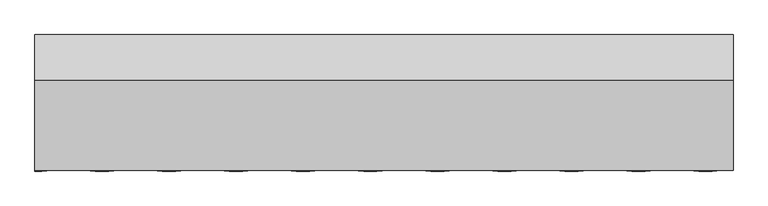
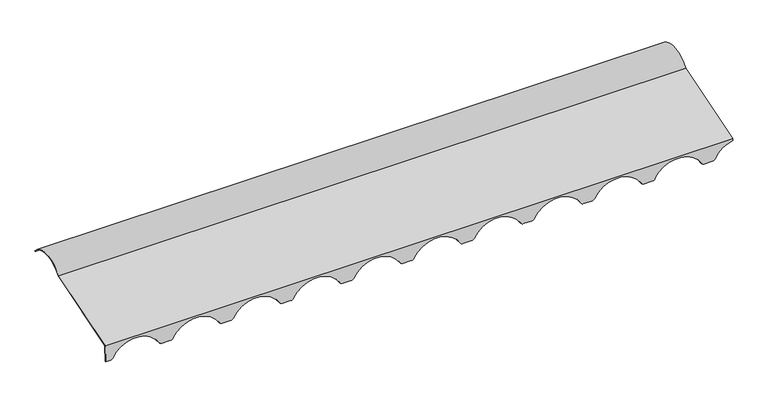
"""IFC4 building model written with IfcOpenShell, lengths in millimetres: proxy geometry, H20.F20.003-B-REMATES TEJA-Cumbrera Troquelada : Cumbrera Troquelada Teja."""

from ifc_helpers import new_model, si_unit, point, frame, origin, place, context, project, spatial, polyline, circle_curve, ellipse_curve, trimmed, source, transform, mapped, element, save
from ifc_brep_helpers import plane_surface, cylinder_surface, revolved_surface, extruded_surface, advanced_brep


def generic_models_30704ff6(model_context):
    return source(origin(), model_context, "Body", "AdvancedBrep", [
        advanced_brep(
        [(0.0, -281.4033726, -80.897882), (0.0, -283.699857, -124.7174144), (0.0, -285.2976643, -124.6336769), (0.0, -282.9425462, -79.6953478), (0.0, -58.2444748, -10.9982533), (0.0, 54.2044834, -5.8308046), (0.0, 52.9905575, -6.8731021), (0.0, -57.2523162, -12.3680268), (1735.0, -57.2523162, -12.3680268), (1735.0, -281.4033726, -80.897882), (1735.0, 52.9905575, -6.8731021), (1735.0, 54.2044834, -5.8308046), (1735.0, -58.2444748, -10.9982533), (1735.0, -282.9425462, -79.6953478), (12.0278261, -285.2976643, -124.6336769), (18.9419763, -285.0927503, -120.7236858), (147.7180237, -285.0927503, -120.7236858), (154.6321739, -285.2976643, -124.6336769), (178.6878261, -285.2976643, -124.6336769), (185.6019763, -285.0927503, -120.7236858), (314.3780237, -285.0927503, -120.7236858), (321.2921739, -285.2976643, -124.6336769), (345.3478261, -285.2976643, -124.6336769), (352.2619763, -285.0927503, -120.7236858), (481.0380237, -285.0927503, -120.7236858), (487.9521739, -285.2976643, -124.6336769), (512.0078261, -285.2976643, -124.6336769), (518.9219763, -285.0927503, -120.7236858), (647.6980237, -285.0927503, -120.7236858), (654.6121739, -285.2976643, -124.6336769), (678.6678261, -285.2976643, -124.6336769), (685.5819763, -285.0927503, -120.7236858), (814.3580237, -285.0927503, -120.7236858), (821.2721739, -285.2976643, -124.6336769), (845.3278261, -285.2976643, -124.6336769), (852.2419763, -285.0927503, -120.7236858), (981.0180237, -285.0927503, -120.7236858), (987.9321739, -285.2976643, -124.6336769), (1011.9878261, -285.2976643, -124.6336769), (1018.9019763, -285.0927503, -120.7236858), (1147.6780237, -285.0927503, -120.7236858), (1154.5921739, -285.2976643, -124.6336769), (1178.6478261, -285.2976643, -124.6336769), (1185.5619763, -285.0927503, -120.7236858), (1314.3380237, -285.0927503, -120.7236858), (1321.2521739, -285.2976643, -124.6336769), (1345.3078261, -285.2976643, -124.6336769), (1352.2219763, -285.0927503, -120.7236858), (1480.9980237, -285.0927503, -120.7236858), (1487.9121739, -285.2976643, -124.6336769), (1511.9678261, -285.2976643, -124.6336769), (1518.8819763, -285.0927503, -120.7236858), (1647.6580237, -285.0927503, -120.7236858), (1654.5721739, -285.2976643, -124.6336769), (1678.6278261, -285.2976643, -124.6336769), (1685.5419763, -285.0927503, -120.7236858), (1735.0, -283.2623847, -85.7982299), (12.0278261, -283.699857, -124.7174144), (154.6321739, -283.699857, -124.7174144), (178.6878261, -283.699857, -124.7174144), (321.2921739, -283.699857, -124.7174144), (345.3478261, -283.699857, -124.7174144), (487.9521739, -283.699857, -124.7174144), (512.0078261, -283.699857, -124.7174144), (654.6121739, -283.699857, -124.7174144), (678.6678261, -283.699857, -124.7174144), (821.2721739, -283.699857, -124.7174144), (845.3278261, -283.699857, -124.7174144), (987.9321739, -283.699857, -124.7174144), (1011.9878261, -283.699857, -124.7174144), (1154.5921739, -283.699857, -124.7174144), (1178.6478261, -283.699857, -124.7174144), (1321.2521739, -283.699857, -124.7174144), (1345.3078261, -283.699857, -124.7174144), (1487.9121739, -283.699857, -124.7174144), (1511.9678261, -283.699857, -124.7174144), (1654.5721739, -283.699857, -124.7174144), (1678.6278261, -283.699857, -124.7174144), (1735.0, -281.6645775, -85.8819674), (1685.5419763, -283.494943, -120.8074234), (1647.6580237, -283.494943, -120.8074234), (1518.8819763, -283.494943, -120.8074234), (1480.9980237, -283.494943, -120.8074234), (1352.2219763, -283.494943, -120.8074234), (1314.3380237, -283.494943, -120.8074234), (1185.5619763, -283.494943, -120.8074234), (1147.6780237, -283.494943, -120.8074234), (1018.9019763, -283.494943, -120.8074234), (981.0180237, -283.494943, -120.8074234), (852.2419763, -283.494943, -120.8074234), (814.3580237, -283.494943, -120.8074234), (685.5819763, -283.494943, -120.8074234), (647.6980237, -283.494943, -120.8074234), (518.9219763, -283.494943, -120.8074234), (481.0380237, -283.494943, -120.8074234), (352.2619763, -283.494943, -120.8074234), (314.3780237, -283.494943, -120.8074234), (185.6019763, -283.494943, -120.8074234), (147.7180237, -283.494943, -120.8074234), (18.9419763, -283.494943, -120.8074234)],
        [
            (0, 1),
            (1, 2),
            (2, 3),
            (3, 4),
            (4, 5, circle_curve(frame((0.0, 0.0, -52.3716984), z_axis=(-1.0, 0.0, 0.0), x_axis=(0.0, -1.0, 0.0)), 71.4435498)),
            (5, 6),
            (6, 7, circle_curve(frame((0.0, 0.0, -52.3716984), z_axis=(1.0, 0.0, 0.0), x_axis=(0.0, -1.0, 0.0)), 69.8435498)),
            (7, 0),
            (7, 8),
            (8, 9),
            (9, 0),
            (6, 10),
            (10, 8, circle_curve(frame((1735.0, 0.0, -52.3716984), z_axis=(1.0, 0.0, 0.0), x_axis=(0.0, -1.0, 0.0)), 69.8435498)),
            (5, 11),
            (11, 10),
            (4, 12),
            (12, 11, circle_curve(frame((1735.0, 0.0, -52.3716984), z_axis=(-1.0, 0.0, 0.0), x_axis=(0.0, -1.0, 0.0)), 71.4435498)),
            (3, 13),
            (13, 12),
            (2, 14),
            (14, 15, ellipse_curve(frame((12.0278261, -284.8853374, -116.766012), z_axis=(0.0, -0.998629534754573, 0.052335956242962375), x_axis=(1.0, 0.0, 0.0)), 8.0, 7.878462)),
            (15, 16, ellipse_curve(frame((83.33, -287.0242829, -157.5795235), z_axis=(0.0, 0.998629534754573, -0.052335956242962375), x_axis=(1.0, 0.0, 0.0)), 74.5, 73.3681776)),
            (16, 17, ellipse_curve(frame((154.6321739, -284.8853374, -116.766012), z_axis=(0.0, -0.998629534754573, 0.052335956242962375), x_axis=(1.0, 0.0, 0.0)), 8.0, 7.878462)),
            (17, 18),
            (18, 19, ellipse_curve(frame((178.6878261, -284.8853374, -116.766012), z_axis=(0.0, -0.998629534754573, 0.052335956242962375), x_axis=(1.0, 0.0, 0.0)), 8.0, 7.878462)),
            (19, 20, ellipse_curve(frame((249.99, -287.0242829, -157.5795235), z_axis=(0.0, 0.998629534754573, -0.052335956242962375), x_axis=(1.0, 0.0, 0.0)), 74.5, 73.3681776)),
            (20, 21, ellipse_curve(frame((321.2921739, -284.8853374, -116.766012), z_axis=(0.0, -0.998629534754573, 0.0523359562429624), x_axis=(1.0, 0.0, 0.0)), 8.0, 7.878462)),
            (21, 22),
            (22, 23, ellipse_curve(frame((345.3478261, -284.8853374, -116.766012), z_axis=(0.0, -0.998629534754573, 0.052335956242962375), x_axis=(1.0, 0.0, 0.0)), 8.0, 7.878462)),
            (23, 24, ellipse_curve(frame((416.65, -287.0242829, -157.5795235), z_axis=(0.0, 0.998629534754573, -0.052335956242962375), x_axis=(1.0, 0.0, 0.0)), 74.5, 73.3681776)),
            (24, 25, ellipse_curve(frame((487.9521739, -284.8853374, -116.766012), z_axis=(0.0, -0.998629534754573, 0.052335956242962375), x_axis=(1.0, 0.0, 0.0)), 8.0, 7.878462)),
            (25, 26),
            (26, 27, ellipse_curve(frame((512.0078261, -284.8853374, -116.766012), z_axis=(0.0, -0.998629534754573, 0.052335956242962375), x_axis=(1.0, 0.0, 0.0)), 8.0, 7.878462)),
            (27, 28, ellipse_curve(frame((583.31, -287.0242829, -157.5795235), z_axis=(0.0, 0.998629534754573, -0.052335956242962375), x_axis=(1.0, 0.0, 0.0)), 74.5, 73.3681776)),
            (28, 29, ellipse_curve(frame((654.6121739, -284.8853374, -116.766012), z_axis=(0.0, -0.998629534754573, 0.052335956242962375), x_axis=(1.0, 0.0, 0.0)), 8.0, 7.878462)),
            (29, 30),
            (30, 31, ellipse_curve(frame((678.6678261, -284.8853374, -116.766012), z_axis=(0.0, -0.998629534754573, 0.052335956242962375), x_axis=(1.0, 0.0, 0.0)), 8.0, 7.878462)),
            (31, 32, ellipse_curve(frame((749.97, -287.0242829, -157.5795235), z_axis=(0.0, 0.998629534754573, -0.052335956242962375), x_axis=(1.0, 0.0, 0.0)), 74.5, 73.3681776)),
            (32, 33, ellipse_curve(frame((821.2721739, -284.8853374, -116.766012), z_axis=(0.0, -0.998629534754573, 0.052335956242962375), x_axis=(1.0, 0.0, 0.0)), 8.0, 7.878462)),
            (33, 34),
            (34, 35, ellipse_curve(frame((845.3278261, -284.8853374, -116.766012), z_axis=(0.0, -0.998629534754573, 0.052335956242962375), x_axis=(1.0, 0.0, 0.0)), 8.0, 7.878462)),
            (35, 36, ellipse_curve(frame((916.63, -287.0242829, -157.5795235), z_axis=(0.0, 0.998629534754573, -0.052335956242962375), x_axis=(1.0, 0.0, 0.0)), 74.5, 73.3681776)),
            (36, 37, ellipse_curve(frame((987.9321739, -284.8853374, -116.766012), z_axis=(0.0, -0.998629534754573, 0.052335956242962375), x_axis=(1.0, 0.0, 0.0)), 8.0, 7.878462)),
            (37, 38),
            (38, 39, ellipse_curve(frame((1011.9878261, -284.8853374, -116.766012), z_axis=(0.0, -0.998629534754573, 0.052335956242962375), x_axis=(1.0, 0.0, 0.0)), 8.0, 7.878462)),
            (39, 40, ellipse_curve(frame((1083.29, -287.0242829, -157.5795235), z_axis=(0.0, 0.998629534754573, -0.0523359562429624), x_axis=(1.0, 0.0, 0.0)), 74.5, 73.3681776)),
            (40, 41, ellipse_curve(frame((1154.5921739, -284.8853374, -116.766012), z_axis=(0.0, -0.998629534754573, 0.052335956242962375), x_axis=(1.0, 0.0, 0.0)), 8.0, 7.878462)),
            (41, 42),
            (42, 43, ellipse_curve(frame((1178.6478261, -284.8853374, -116.766012), z_axis=(0.0, -0.998629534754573, 0.052335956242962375), x_axis=(1.0, 0.0, 0.0)), 8.0, 7.878462)),
            (43, 44, ellipse_curve(frame((1249.95, -287.0242829, -157.5795235), z_axis=(0.0, 0.998629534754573, -0.052335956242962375), x_axis=(1.0, 0.0, 0.0)), 74.5, 73.3681776)),
            (44, 45, ellipse_curve(frame((1321.2521739, -284.8853374, -116.766012), z_axis=(0.0, -0.998629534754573, 0.05233595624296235), x_axis=(1.0, 0.0, 0.0)), 8.0, 7.878462)),
            (45, 46),
            (46, 47, ellipse_curve(frame((1345.3078261, -284.8853374, -116.766012), z_axis=(0.0, -0.998629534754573, 0.052335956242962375), x_axis=(1.0, 0.0, 0.0)), 8.0, 7.878462)),
            (47, 48, ellipse_curve(frame((1416.61, -287.0242829, -157.5795235), z_axis=(0.0, 0.998629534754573, -0.052335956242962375), x_axis=(1.0, 0.0, 0.0)), 74.5, 73.3681776)),
            (48, 49, ellipse_curve(frame((1487.9121739, -284.8853374, -116.766012), z_axis=(0.0, -0.998629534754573, 0.0523359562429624), x_axis=(1.0, 0.0, 0.0)), 8.0, 7.878462)),
            (49, 50),
            (50, 51, ellipse_curve(frame((1511.9678261, -284.8853374, -116.766012), z_axis=(0.0, -0.998629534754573, 0.052335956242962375), x_axis=(1.0, 0.0, 0.0)), 8.0, 7.878462)),
            (51, 52, ellipse_curve(frame((1583.27, -287.0242829, -157.5795235), z_axis=(0.0, 0.998629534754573, -0.052335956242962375), x_axis=(1.0, 0.0, 0.0)), 74.5, 73.3681776)),
            (52, 53, ellipse_curve(frame((1654.5721739, -284.8853374, -116.766012), z_axis=(0.0, -0.998629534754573, 0.052335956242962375), x_axis=(1.0, 0.0, 0.0)), 8.0, 7.878462)),
            (53, 54),
            (54, 55, ellipse_curve(frame((1678.6278261, -284.8853374, -116.766012), z_axis=(0.0, -0.998629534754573, 0.052335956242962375), x_axis=(1.0, 0.0, 0.0)), 8.0, 7.878462)),
            (55, 56, ellipse_curve(frame((1749.93, -287.0242829, -157.5795235), z_axis=(0.0, 0.998629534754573, -0.052335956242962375), x_axis=(1.0, 0.0, 0.0)), 74.5, 73.3681776)),
            (56, 13),
            (1, 57),
            (57, 14),
            (17, 58),
            (58, 59),
            (59, 18),
            (21, 60),
            (60, 61),
            (61, 22),
            (25, 62),
            (62, 63),
            (63, 26),
            (29, 64),
            (64, 65),
            (65, 30),
            (33, 66),
            (66, 67),
            (67, 34),
            (37, 68),
            (68, 69),
            (69, 38),
            (41, 70),
            (70, 71),
            (71, 42),
            (45, 72),
            (72, 73),
            (73, 46),
            (49, 74),
            (74, 75),
            (75, 50),
            (53, 76),
            (76, 77),
            (77, 54),
            (9, 78),
            (78, 79, ellipse_curve(frame((1749.93, -285.4264757, -157.663261), z_axis=(0.0, -0.998629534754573, 0.052335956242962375), x_axis=(1.0, 0.0, 0.0)), 74.5, 73.3681776)),
            (79, 77, ellipse_curve(frame((1678.6278261, -283.2875302, -116.8497495), z_axis=(0.0, 0.998629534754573, -0.052335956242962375), x_axis=(1.0, 0.0, 0.0)), 8.0, 7.878462)),
            (76, 80, ellipse_curve(frame((1654.5721739, -283.2875302, -116.8497495), z_axis=(0.0, 0.998629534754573, -0.052335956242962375), x_axis=(1.0, 0.0, 0.0)), 8.0, 7.878462)),
            (80, 81, ellipse_curve(frame((1583.27, -285.4264757, -157.663261), z_axis=(0.0, -0.998629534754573, 0.052335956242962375), x_axis=(1.0, 0.0, 0.0)), 74.5, 73.3681776)),
            (81, 75, ellipse_curve(frame((1511.9678261, -283.2875302, -116.8497495), z_axis=(0.0, 0.998629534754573, -0.052335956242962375), x_axis=(1.0, 0.0, 0.0)), 8.0, 7.878462)),
            (74, 82, ellipse_curve(frame((1487.9121739, -283.2875302, -116.8497495), z_axis=(0.0, 0.998629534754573, -0.0523359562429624), x_axis=(1.0, 0.0, 0.0)), 8.0, 7.878462)),
            (82, 83, ellipse_curve(frame((1416.61, -285.4264757, -157.663261), z_axis=(0.0, -0.998629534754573, 0.052335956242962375), x_axis=(1.0, 0.0, 0.0)), 74.5, 73.3681776)),
            (83, 73, ellipse_curve(frame((1345.3078261, -283.2875302, -116.8497495), z_axis=(0.0, 0.998629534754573, -0.052335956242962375), x_axis=(1.0, 0.0, 0.0)), 8.0, 7.878462)),
            (72, 84, ellipse_curve(frame((1321.2521739, -283.2875302, -116.8497495), z_axis=(0.0, 0.998629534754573, -0.05233595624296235), x_axis=(1.0, 0.0, 0.0)), 8.0, 7.878462)),
            (84, 85, ellipse_curve(frame((1249.95, -285.4264757, -157.663261), z_axis=(0.0, -0.998629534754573, 0.052335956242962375), x_axis=(1.0, 0.0, 0.0)), 74.5, 73.3681776)),
            (85, 71, ellipse_curve(frame((1178.6478261, -283.2875302, -116.8497495), z_axis=(0.0, 0.998629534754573, -0.052335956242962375), x_axis=(1.0, 0.0, 0.0)), 8.0, 7.878462)),
            (70, 86, ellipse_curve(frame((1154.5921739, -283.2875302, -116.8497495), z_axis=(0.0, 0.998629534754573, -0.052335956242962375), x_axis=(1.0, 0.0, 0.0)), 8.0, 7.878462)),
            (86, 87, ellipse_curve(frame((1083.29, -285.4264757, -157.663261), z_axis=(0.0, -0.998629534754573, 0.0523359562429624), x_axis=(1.0, 0.0, 0.0)), 74.5, 73.3681776)),
            (87, 69, ellipse_curve(frame((1011.9878261, -283.2875302, -116.8497495), z_axis=(0.0, 0.998629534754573, -0.052335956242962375), x_axis=(1.0, 0.0, 0.0)), 8.0, 7.878462)),
            (68, 88, ellipse_curve(frame((987.9321739, -283.2875302, -116.8497495), z_axis=(0.0, 0.998629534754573, -0.052335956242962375), x_axis=(1.0, 0.0, 0.0)), 8.0, 7.878462)),
            (88, 89, ellipse_curve(frame((916.63, -285.4264757, -157.663261), z_axis=(0.0, -0.998629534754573, 0.052335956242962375), x_axis=(1.0, 0.0, 0.0)), 74.5, 73.3681776)),
            (89, 67, ellipse_curve(frame((845.3278261, -283.2875302, -116.8497495), z_axis=(0.0, 0.998629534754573, -0.052335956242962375), x_axis=(1.0, 0.0, 0.0)), 8.0, 7.878462)),
            (66, 90, ellipse_curve(frame((821.2721739, -283.2875302, -116.8497495), z_axis=(0.0, 0.998629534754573, -0.052335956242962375), x_axis=(1.0, 0.0, 0.0)), 8.0, 7.878462)),
            (90, 91, ellipse_curve(frame((749.97, -285.4264757, -157.663261), z_axis=(0.0, -0.998629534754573, 0.052335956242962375), x_axis=(1.0, 0.0, 0.0)), 74.5, 73.3681776)),
            (91, 65, ellipse_curve(frame((678.6678261, -283.2875302, -116.8497495), z_axis=(0.0, 0.998629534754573, -0.052335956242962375), x_axis=(1.0, 0.0, 0.0)), 8.0, 7.878462)),
            (64, 92, ellipse_curve(frame((654.6121739, -283.2875302, -116.8497495), z_axis=(0.0, 0.998629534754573, -0.052335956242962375), x_axis=(1.0, 0.0, 0.0)), 8.0, 7.878462)),
            (92, 93, ellipse_curve(frame((583.31, -285.4264757, -157.663261), z_axis=(0.0, -0.998629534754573, 0.052335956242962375), x_axis=(1.0, 0.0, 0.0)), 74.5, 73.3681776)),
            (93, 63, ellipse_curve(frame((512.0078261, -283.2875302, -116.8497495), z_axis=(0.0, 0.998629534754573, -0.052335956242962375), x_axis=(1.0, 0.0, 0.0)), 8.0, 7.878462)),
            (62, 94, ellipse_curve(frame((487.9521739, -283.2875302, -116.8497495), z_axis=(0.0, 0.998629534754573, -0.052335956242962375), x_axis=(1.0, 0.0, 0.0)), 8.0, 7.878462)),
            (94, 95, ellipse_curve(frame((416.65, -285.4264757, -157.663261), z_axis=(0.0, -0.998629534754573, 0.052335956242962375), x_axis=(1.0, 0.0, 0.0)), 74.5, 73.3681776)),
            (95, 61, ellipse_curve(frame((345.3478261, -283.2875302, -116.8497495), z_axis=(0.0, 0.998629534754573, -0.052335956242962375), x_axis=(1.0, 0.0, 0.0)), 8.0, 7.878462)),
            (60, 96, ellipse_curve(frame((321.2921739, -283.2875302, -116.8497495), z_axis=(0.0, 0.998629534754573, -0.0523359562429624), x_axis=(1.0, 0.0, 0.0)), 8.0, 7.878462)),
            (96, 97, ellipse_curve(frame((249.99, -285.4264757, -157.663261), z_axis=(0.0, -0.998629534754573, 0.052335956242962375), x_axis=(1.0, 0.0, 0.0)), 74.5, 73.3681776)),
            (97, 59, ellipse_curve(frame((178.6878261, -283.2875302, -116.8497495), z_axis=(0.0, 0.998629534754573, -0.052335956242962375), x_axis=(1.0, 0.0, 0.0)), 8.0, 7.878462)),
            (58, 98, ellipse_curve(frame((154.6321739, -283.2875302, -116.8497495), z_axis=(0.0, 0.998629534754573, -0.052335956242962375), x_axis=(1.0, 0.0, 0.0)), 8.0, 7.878462)),
            (98, 99, ellipse_curve(frame((83.33, -285.4264757, -157.663261), z_axis=(0.0, -0.998629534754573, 0.052335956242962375), x_axis=(1.0, 0.0, 0.0)), 74.5, 73.3681776)),
            (99, 57, ellipse_curve(frame((12.0278261, -283.2875302, -116.8497495), z_axis=(0.0, 0.998629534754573, -0.052335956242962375), x_axis=(1.0, 0.0, 0.0)), 8.0, 7.878462)),
            (15, 99),
            (98, 16),
            (97, 19),
            (96, 20),
            (95, 23),
            (94, 24),
            (93, 27),
            (92, 28),
            (91, 31),
            (90, 32),
            (89, 35),
            (88, 36),
            (87, 39),
            (86, 40),
            (85, 43),
            (84, 44),
            (83, 47),
            (82, 48),
            (81, 51),
            (80, 52),
            (79, 55),
            (78, 56),
        ],
        [
            plane_surface(frame((0.0, 0.0, 0.0), z_axis=(-1.0, 0.0, 0.0), x_axis=(0.0, 0.0, 1.0))),
            plane_surface(frame((2500.0, -281.4033726, -80.897882), z_axis=(0.0, 0.2923717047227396, -0.9563047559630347), x_axis=(-1.0, 0.0, 0.0))),
            revolved_surface(polyline([(0.0, -69.8435498, -52.3716984), (1735.0, -69.8435498, -52.3716984)]), (2500.0, 0.0, -52.3716984), (-1.0, 0.0, 0.0)),
            plane_surface(frame((2500.0, 52.9905575, -6.8731021), z_axis=(0.0, 0.6514359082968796, -0.7587036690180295), x_axis=(-1.0, 0.0, 0.0))),
            cylinder_surface(frame((2500.0, 0.0, -52.3716984), z_axis=(1.0, 0.0, 0.0), x_axis=(0.0, -1.0, 0.0)), 71.4435498),
            plane_surface(frame((2500.0, -58.2444748, -10.9982533), z_axis=(0.0, -0.2923717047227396, 0.9563047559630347), x_axis=(-1.0, 0.0, 0.0))),
            plane_surface(frame((2500.0, -282.9425462, -79.6953478), z_axis=(0.0, -0.998629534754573, 0.05233595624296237), x_axis=(-1.0, 0.0, 0.0))),
            plane_surface(frame((2500.0, -285.2976643, -124.6336769), z_axis=(0.0, -0.05233595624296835, -0.9986295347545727), x_axis=(-1.0, 0.0, 0.0))),
            plane_surface(frame((2500.0, -283.699857, -124.7174144), z_axis=(0.0, 0.9986295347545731, -0.05233595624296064), x_axis=(-1.0, 0.0, 0.0))),
            extruded_surface(trimmed(ellipse_curve(frame((83.33, -287.0242829, -157.5795235), z_axis=(0.0, 0.998629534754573, -0.052335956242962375), x_axis=(1.0, 0.0, 0.0)), 74.5, 73.3681776), [point((18.9419763, -285.0927503, -120.7236858))], [point((147.7180237, -285.0927503, -120.7236858))], True, "CARTESIAN"), (0.0, -1.997259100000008, 0.1046718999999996), 2.0000000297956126),
            extruded_surface(trimmed(ellipse_curve(frame((154.6321739, -284.8853374, -116.766012), z_axis=(0.0, -0.998629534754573, 0.052335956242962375), x_axis=(1.0, 0.0, 0.0)), 8.0, 7.878462), [point((147.7180237, -285.0927503, -120.7236858))], [point((154.6321739, -285.2976643, -124.6336769))], True, "CARTESIAN"), (0.0, -1.997259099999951, 0.1046718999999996), 2.000000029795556),
            extruded_surface(trimmed(ellipse_curve(frame((178.6878261, -284.8853374, -116.766012), z_axis=(0.0, -0.998629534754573, 0.052335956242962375), x_axis=(1.0, 0.0, 0.0)), 8.0, 7.878462), [point((178.6878261, -285.2976643, -124.6336769))], [point((185.6019763, -285.0927503, -120.7236858))], True, "CARTESIAN"), (0.0, -1.997259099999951, 0.1046718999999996), 2.000000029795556),
            extruded_surface(trimmed(ellipse_curve(frame((249.99, -287.0242829, -157.5795235), z_axis=(0.0, 0.998629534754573, -0.052335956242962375), x_axis=(1.0, 0.0, 0.0)), 74.5, 73.3681776), [point((185.6019763, -285.0927503, -120.7236858))], [point((314.3780237, -285.0927503, -120.7236858))], True, "CARTESIAN"), (0.0, -1.997259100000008, 0.1046718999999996), 2.0000000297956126),
            extruded_surface(trimmed(ellipse_curve(frame((321.2921739, -284.8853374, -116.766012), z_axis=(0.0, -0.998629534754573, 0.0523359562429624), x_axis=(1.0, 0.0, 0.0)), 8.0, 7.878462), [point((314.3780237, -285.0927503, -120.7236858))], [point((321.2921739, -285.2976643, -124.6336769))], True, "CARTESIAN"), (0.0, -1.997259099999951, 0.1046718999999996), 2.000000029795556),
            extruded_surface(trimmed(ellipse_curve(frame((345.3478261, -284.8853374, -116.766012), z_axis=(0.0, -0.998629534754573, 0.052335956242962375), x_axis=(1.0, 0.0, 0.0)), 8.0, 7.878462), [point((345.3478261, -285.2976643, -124.6336769))], [point((352.2619763, -285.0927503, -120.7236858))], True, "CARTESIAN"), (0.0, -1.997259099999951, 0.1046718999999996), 2.000000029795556),
            extruded_surface(trimmed(ellipse_curve(frame((416.65, -287.0242829, -157.5795235), z_axis=(0.0, 0.998629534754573, -0.052335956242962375), x_axis=(1.0, 0.0, 0.0)), 74.5, 73.3681776), [point((352.2619763, -285.0927503, -120.7236858))], [point((481.0380237, -285.0927503, -120.7236858))], True, "CARTESIAN"), (0.0, -1.997259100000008, 0.1046718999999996), 2.0000000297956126),
            extruded_surface(trimmed(ellipse_curve(frame((487.9521739, -284.8853374, -116.766012), z_axis=(0.0, -0.998629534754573, 0.052335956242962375), x_axis=(1.0, 0.0, 0.0)), 8.0, 7.878462), [point((481.0380237, -285.0927503, -120.7236858))], [point((487.9521739, -285.2976643, -124.6336769))], True, "CARTESIAN"), (0.0, -1.997259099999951, 0.1046718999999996), 2.000000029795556),
            extruded_surface(trimmed(ellipse_curve(frame((512.0078261, -284.8853374, -116.766012), z_axis=(0.0, -0.998629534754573, 0.052335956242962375), x_axis=(1.0, 0.0, 0.0)), 8.0, 7.878462), [point((512.0078261, -285.2976643, -124.6336769))], [point((518.9219763, -285.0927503, -120.7236858))], True, "CARTESIAN"), (0.0, -1.997259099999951, 0.1046718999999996), 2.000000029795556),
            extruded_surface(trimmed(ellipse_curve(frame((583.31, -287.0242829, -157.5795235), z_axis=(0.0, 0.998629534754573, -0.052335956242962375), x_axis=(1.0, 0.0, 0.0)), 74.5, 73.3681776), [point((518.9219763, -285.0927503, -120.7236858))], [point((647.6980237, -285.0927503, -120.7236858))], True, "CARTESIAN"), (0.0, -1.997259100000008, 0.1046718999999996), 2.0000000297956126),
            extruded_surface(trimmed(ellipse_curve(frame((654.6121739, -284.8853374, -116.766012), z_axis=(0.0, -0.998629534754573, 0.052335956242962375), x_axis=(1.0, 0.0, 0.0)), 8.0, 7.878462), [point((647.6980237, -285.0927503, -120.7236858))], [point((654.6121739, -285.2976643, -124.6336769))], True, "CARTESIAN"), (0.0, -1.997259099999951, 0.1046718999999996), 2.000000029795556),
            extruded_surface(trimmed(ellipse_curve(frame((678.6678261, -284.8853374, -116.766012), z_axis=(0.0, -0.998629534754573, 0.052335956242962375), x_axis=(1.0, 0.0, 0.0)), 8.0, 7.878462), [point((678.6678261, -285.2976643, -124.6336769))], [point((685.5819763, -285.0927503, -120.7236858))], True, "CARTESIAN"), (0.0, -1.997259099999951, 0.1046718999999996), 2.000000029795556),
            extruded_surface(trimmed(ellipse_curve(frame((749.97, -287.0242829, -157.5795235), z_axis=(0.0, 0.998629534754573, -0.052335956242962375), x_axis=(1.0, 0.0, 0.0)), 74.5, 73.3681776), [point((685.5819763, -285.0927503, -120.7236858))], [point((814.3580237, -285.0927503, -120.7236858))], True, "CARTESIAN"), (0.0, -1.997259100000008, 0.1046718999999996), 2.0000000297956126),
            extruded_surface(trimmed(ellipse_curve(frame((821.2721739, -284.8853374, -116.766012), z_axis=(0.0, -0.998629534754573, 0.052335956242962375), x_axis=(1.0, 0.0, 0.0)), 8.0, 7.878462), [point((814.3580237, -285.0927503, -120.7236858))], [point((821.2721739, -285.2976643, -124.6336769))], True, "CARTESIAN"), (0.0, -1.997259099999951, 0.1046718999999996), 2.000000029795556),
            extruded_surface(trimmed(ellipse_curve(frame((845.3278261, -284.8853374, -116.766012), z_axis=(0.0, -0.998629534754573, 0.052335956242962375), x_axis=(1.0, 0.0, 0.0)), 8.0, 7.878462), [point((845.3278261, -285.2976643, -124.6336769))], [point((852.2419763, -285.0927503, -120.7236858))], True, "CARTESIAN"), (0.0, -1.997259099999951, 0.1046718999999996), 2.000000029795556),
            extruded_surface(trimmed(ellipse_curve(frame((916.63, -287.0242829, -157.5795235), z_axis=(0.0, 0.998629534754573, -0.052335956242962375), x_axis=(1.0, 0.0, 0.0)), 74.5, 73.3681776), [point((852.2419763, -285.0927503, -120.7236858))], [point((981.0180237, -285.0927503, -120.7236858))], True, "CARTESIAN"), (0.0, -1.997259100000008, 0.1046718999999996), 2.0000000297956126),
            extruded_surface(trimmed(ellipse_curve(frame((987.9321739, -284.8853374, -116.766012), z_axis=(0.0, -0.998629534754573, 0.052335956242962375), x_axis=(1.0, 0.0, 0.0)), 8.0, 7.878462), [point((981.0180237, -285.0927503, -120.7236858))], [point((987.9321739, -285.2976643, -124.6336769))], True, "CARTESIAN"), (0.0, -1.997259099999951, 0.1046718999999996), 2.000000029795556),
            extruded_surface(trimmed(ellipse_curve(frame((1011.9878261, -284.8853374, -116.766012), z_axis=(0.0, -0.998629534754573, 0.052335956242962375), x_axis=(1.0, 0.0, 0.0)), 8.0, 7.878462), [point((1011.9878261, -285.2976643, -124.6336769))], [point((1018.9019763, -285.0927503, -120.7236858))], True, "CARTESIAN"), (0.0, -1.997259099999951, 0.1046718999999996), 2.000000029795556),
            extruded_surface(trimmed(ellipse_curve(frame((1083.29, -287.0242829, -157.5795235), z_axis=(0.0, 0.998629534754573, -0.0523359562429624), x_axis=(1.0, 0.0, 0.0)), 74.5, 73.3681776), [point((1018.9019763, -285.0927503, -120.7236858))], [point((1147.6780237, -285.0927503, -120.7236858))], True, "CARTESIAN"), (0.0, -1.997259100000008, 0.1046718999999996), 2.0000000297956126),
            extruded_surface(trimmed(ellipse_curve(frame((1154.5921739, -284.8853374, -116.766012), z_axis=(0.0, -0.998629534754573, 0.052335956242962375), x_axis=(1.0, 0.0, 0.0)), 8.0, 7.878462), [point((1147.6780237, -285.0927503, -120.7236858))], [point((1154.5921739, -285.2976643, -124.6336769))], True, "CARTESIAN"), (0.0, -1.997259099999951, 0.1046718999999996), 2.000000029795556),
            extruded_surface(trimmed(ellipse_curve(frame((1178.6478261, -284.8853374, -116.766012), z_axis=(0.0, -0.998629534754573, 0.052335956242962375), x_axis=(1.0, 0.0, 0.0)), 8.0, 7.878462), [point((1178.6478261, -285.2976643, -124.6336769))], [point((1185.5619763, -285.0927503, -120.7236858))], True, "CARTESIAN"), (0.0, -1.997259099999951, 0.1046718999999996), 2.000000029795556),
            extruded_surface(trimmed(ellipse_curve(frame((1249.95, -287.0242829, -157.5795235), z_axis=(0.0, 0.998629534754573, -0.052335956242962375), x_axis=(1.0, 0.0, 0.0)), 74.5, 73.3681776), [point((1185.5619763, -285.0927503, -120.7236858))], [point((1314.3380237, -285.0927503, -120.7236858))], True, "CARTESIAN"), (0.0, -1.997259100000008, 0.1046718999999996), 2.0000000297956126),
            extruded_surface(trimmed(ellipse_curve(frame((1321.2521739, -284.8853374, -116.766012), z_axis=(0.0, -0.998629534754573, 0.05233595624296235), x_axis=(1.0, 0.0, 0.0)), 8.0, 7.878462), [point((1314.3380237, -285.0927503, -120.7236858))], [point((1321.2521739, -285.2976643, -124.6336769))], True, "CARTESIAN"), (0.0, -1.997259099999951, 0.1046718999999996), 2.000000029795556),
            extruded_surface(trimmed(ellipse_curve(frame((1345.3078261, -284.8853374, -116.766012), z_axis=(0.0, -0.998629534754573, 0.052335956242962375), x_axis=(1.0, 0.0, 0.0)), 8.0, 7.878462), [point((1345.3078261, -285.2976643, -124.6336769))], [point((1352.2219763, -285.0927503, -120.7236858))], True, "CARTESIAN"), (0.0, -1.997259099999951, 0.1046718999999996), 2.000000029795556),
            extruded_surface(trimmed(ellipse_curve(frame((1416.61, -287.0242829, -157.5795235), z_axis=(0.0, 0.998629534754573, -0.052335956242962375), x_axis=(1.0, 0.0, 0.0)), 74.5, 73.3681776), [point((1352.2219763, -285.0927503, -120.7236858))], [point((1480.9980237, -285.0927503, -120.7236858))], True, "CARTESIAN"), (0.0, -1.997259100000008, 0.1046718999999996), 2.0000000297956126),
            extruded_surface(trimmed(ellipse_curve(frame((1487.9121739, -284.8853374, -116.766012), z_axis=(0.0, -0.998629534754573, 0.0523359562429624), x_axis=(1.0, 0.0, 0.0)), 8.0, 7.878462), [point((1480.9980237, -285.0927503, -120.7236858))], [point((1487.9121739, -285.2976643, -124.6336769))], True, "CARTESIAN"), (0.0, -1.997259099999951, 0.1046718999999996), 2.000000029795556),
            extruded_surface(trimmed(ellipse_curve(frame((1511.9678261, -284.8853374, -116.766012), z_axis=(0.0, -0.998629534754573, 0.052335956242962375), x_axis=(1.0, 0.0, 0.0)), 8.0, 7.878462), [point((1511.9678261, -285.2976643, -124.6336769))], [point((1518.8819763, -285.0927503, -120.7236858))], True, "CARTESIAN"), (0.0, -1.997259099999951, 0.1046718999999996), 2.000000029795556),
            extruded_surface(trimmed(ellipse_curve(frame((1583.27, -287.0242829, -157.5795235), z_axis=(0.0, 0.998629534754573, -0.052335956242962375), x_axis=(1.0, 0.0, 0.0)), 74.5, 73.3681776), [point((1518.8819763, -285.0927503, -120.7236858))], [point((1647.6580237, -285.0927503, -120.7236858))], True, "CARTESIAN"), (0.0, -1.997259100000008, 0.1046718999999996), 2.0000000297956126),
            extruded_surface(trimmed(ellipse_curve(frame((1654.5721739, -284.8853374, -116.766012), z_axis=(0.0, -0.998629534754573, 0.052335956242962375), x_axis=(1.0, 0.0, 0.0)), 8.0, 7.878462), [point((1647.6580237, -285.0927503, -120.7236858))], [point((1654.5721739, -285.2976643, -124.6336769))], True, "CARTESIAN"), (0.0, -1.997259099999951, 0.1046718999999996), 2.000000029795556),
            extruded_surface(trimmed(ellipse_curve(frame((1678.6278261, -284.8853374, -116.766012), z_axis=(0.0, -0.998629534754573, 0.052335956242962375), x_axis=(1.0, 0.0, 0.0)), 8.0, 7.878462), [point((1678.6278261, -285.2976643, -124.6336769))], [point((1685.5419763, -285.0927503, -120.7236858))], True, "CARTESIAN"), (0.0, -1.997259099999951, 0.1046718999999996), 2.000000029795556),
            extruded_surface(trimmed(ellipse_curve(frame((1749.93, -287.0242829, -157.5795235), z_axis=(0.0, 0.998629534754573, -0.052335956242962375), x_axis=(1.0, 0.0, 0.0)), 74.5, 73.3681776), [point((1685.5419763, -285.0927503, -120.7236858))], [point((1814.3180237, -285.0927503, -120.7236858))], True, "CARTESIAN"), (0.0, -1.997259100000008, 0.1046718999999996), 2.0000000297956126),
            extruded_surface(trimmed(ellipse_curve(frame((12.0278261, -284.8853374, -116.766012), z_axis=(0.0, -0.998629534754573, 0.052335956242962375), x_axis=(1.0, 0.0, 0.0)), 8.0, 7.878462), [point((12.0278261, -285.2976643, -124.6336769))], [point((18.9419763, -285.0927503, -120.7236858))], True, "CARTESIAN"), (0.0, -1.997259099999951, 0.1046718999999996), 2.000000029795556),
            plane_surface(frame((1735.0, 196.3809555, 250.0), z_axis=(1.0, 0.0, 0.0), x_axis=(0.0, 0.0, -1.0))),
        ],
        [
            (0, [[1, 2, 3, 4, 5, 6, 7, 8]]),
            (1, [[-8, 9, 10, 11]]),
            (2, [[-7, 12, 13, -9]]),
            (3, [[-6, 14, 15, -12]]),
            (4, [[-5, 16, 17, -14]]),
            (5, [[-4, 18, 19, -16]]),
            (6, [[-3, 20, 21, 22, 23, 24, 25, 26, 27, 28, 29, 30, 31, 32, 33, 34, 35, 36, 37, 38, 39, 40, 41, 42, 43, 44, 45, 46, 47, 48, 49, 50, 51, 52, 53, 54, 55, 56, 57, 58, 59, 60, 61, 62, 63, -18]]),
            (7, [[-2, 64, 65, -20]]),
            (7, [[-24, 66, 67, 68]]),
            (7, [[-28, 69, 70, 71]]),
            (7, [[-32, 72, 73, 74]]),
            (7, [[-36, 75, 76, 77]]),
            (7, [[-40, 78, 79, 80]]),
            (7, [[-44, 81, 82, 83]]),
            (7, [[-48, 84, 85, 86]]),
            (7, [[-52, 87, 88, 89]]),
            (7, [[-56, 90, 91, 92]]),
            (7, [[-60, 93, 94, 95]]),
            (8, [[-1, -11, 96, 97, 98, -94, 99, 100, 101, -91, 102, 103, 104, -88, 105, 106, 107, -85, 108, 109, 110, -82, 111, 112, 113, -79, 114, 115, 116, -76, 117, 118, 119, -73, 120, 121, 122, -70, 123, 124, 125, -67, 126, 127, 128, -64]]),
            (9, [[129, -127, 130, -22]]),
            (10, [[-130, -126, -66, -23]]),
            (11, [[131, -25, -68, -125]]),
            (12, [[-131, -124, 132, -26]]),
            (13, [[-132, -123, -69, -27]]),
            (14, [[133, -29, -71, -122]]),
            (15, [[-133, -121, 134, -30]]),
            (16, [[-134, -120, -72, -31]]),
            (17, [[135, -33, -74, -119]]),
            (18, [[-135, -118, 136, -34]]),
            (19, [[-136, -117, -75, -35]]),
            (20, [[137, -37, -77, -116]]),
            (21, [[-137, -115, 138, -38]]),
            (22, [[-138, -114, -78, -39]]),
            (23, [[139, -41, -80, -113]]),
            (24, [[-139, -112, 140, -42]]),
            (25, [[-140, -111, -81, -43]]),
            (26, [[141, -45, -83, -110]]),
            (27, [[-141, -109, 142, -46]]),
            (28, [[-142, -108, -84, -47]]),
            (29, [[143, -49, -86, -107]]),
            (30, [[-143, -106, 144, -50]]),
            (31, [[-144, -105, -87, -51]]),
            (32, [[145, -53, -89, -104]]),
            (33, [[-145, -103, 146, -54]]),
            (34, [[-146, -102, -90, -55]]),
            (35, [[147, -57, -92, -101]]),
            (36, [[-147, -100, 148, -58]]),
            (37, [[-148, -99, -93, -59]]),
            (38, [[149, -61, -95, -98]]),
            (39, [[-149, -97, 150, -62]]),
            (40, [[-129, -21, -65, -128]]),
            (41, [[-10, -13, -15, -17, -19, -63, -150, -96]]),
        ],
    ),
    ])


if __name__ == "__main__":
    model = new_model("IFC4")
    model_context = context("Model", 3, world=origin())
    ifc_project = project(units=[si_unit("LENGTHUNIT", "METRE", prefix="MILLI")], contexts=[model_context])
    site = spatial("IfcSite", under=ifc_project)
    building = spatial("IfcBuilding", under=site)
    placement = place(None, origin())
    generic_models_shape = generic_models_30704ff6(model_context)
    element("IfcBuildingElementProxy", 1, Name="H20.F20.003-B-REMATES TEJA-Cumbrera Troquelada : Cumbrera Troquelada Teja", ObjectType="H20.F20.003-B-REMATES TEJA-Cumbrera Troquelada : Cumbrera Troquelada Teja", at=placement, inside=building, context=model_context, shape_type="MappedRepresentation", body=[
        mapped(generic_models_shape, transform((0.0, 0.0, 0.0), x_axis=(1.0, 0.0, 0.0), y_axis=(0.0, 1.0, 0.0), z_axis=(0.0, 0.0, 1.0))),
    ])
    save(model, "model.ifc")
